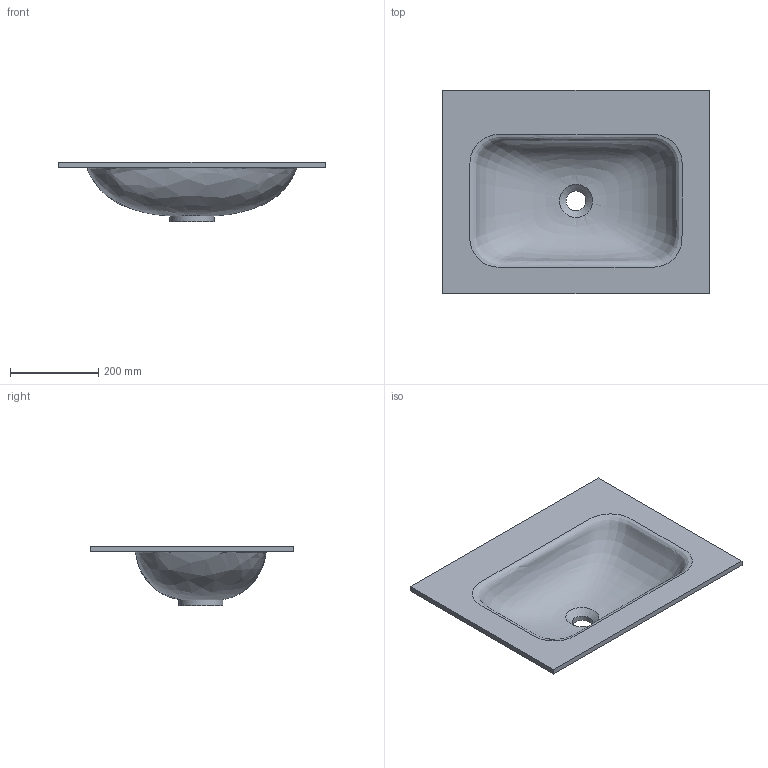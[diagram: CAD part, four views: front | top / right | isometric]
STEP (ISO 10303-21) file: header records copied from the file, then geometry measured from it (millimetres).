
FILE_DESCRIPTION(/* description */ (''),/* implementation_level */ '2;1');
FILE_NAME(/* name */ 'KKR-FGE03.stp',/* time_stamp */ '2025-10-25T10:46:12+08:00',/* author */ (''),/* organization */ (''),/* preprocessor_version */ 'ST-DEVELOPER v20',/* originating_system */ 'SIEMENS PLM Software NX2412.4001',/* authorisation */ '');
FILE_SCHEMA (('AUTOMOTIVE_DESIGN { 1 0 10303 214 3 1 1 1 }'));
Length unit declared in the file: millimetre
Products named in the file (1): KKR-FGE03
Bounding box: 602 x 460 x 135 mm (x, y, z)
Volume: 4060128 mm3; surface area: 700260.4 mm2
Topology: 1 solids, 1 shells, 12 faces, 28 edges, 19 vertices
Faces by surface type: plane 7, bspline 2, cylinder 2, cone 1
Full cylindrical faces by diameter (mm): 45 x1, 100 x1
Entity records: 30292 total; most frequent: CARTESIAN_POINT 30043, DIRECTION 40, ORIENTED_EDGE 38, EDGE_LOOP 20, EDGE_CURVE 19, FACE_BOUND 16, VERTEX_POINT 15, AXIS2_PLACEMENT_3D 14
